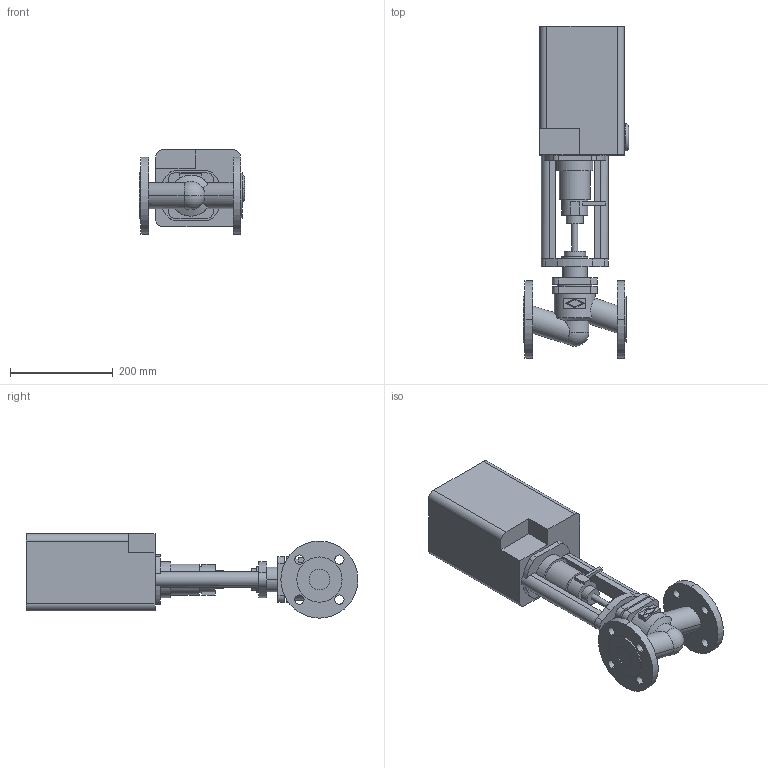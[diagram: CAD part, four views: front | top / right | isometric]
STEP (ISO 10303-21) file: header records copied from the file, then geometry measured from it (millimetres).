
FILE_DESCRIPTION(('OneSpaceDesigner STEP Export'),'2;1');
FILE_NAME('c000001178.stp','2005-02-16T12:06:57',(''),(''),'OneSpace Designer STEP processor (Jan. 2003) for AP203(Solid Model)','OneSpace Designer 12.01D 09-Jul-2004 (C) CoCreate Software GmbH','');
FILE_SCHEMA(('CONFIG_CONTROL_DESIGN'));
Length unit declared in the file: millimetre
Products named in the file (2): 1; 2
Bounding box: 204.6 x 646 x 164 mm (x, y, z)
Volume: 8236931.4 mm3; surface area: 441823.8 mm2
Topology: 2 solids, 2 shells, 174 faces, 441 edges, 292 vertices
Faces by surface type: plane 86, cylinder 82, cone 2, sphere 2, torus 2
Entity records: 5288 total; most frequent: CARTESIAN_POINT 1090, ORIENTED_EDGE 878, DIRECTION 778, EDGE_CURVE 439, VERTEX_POINT 292, AXIS2_PLACEMENT_3D 269, VECTOR 240, LINE 240
